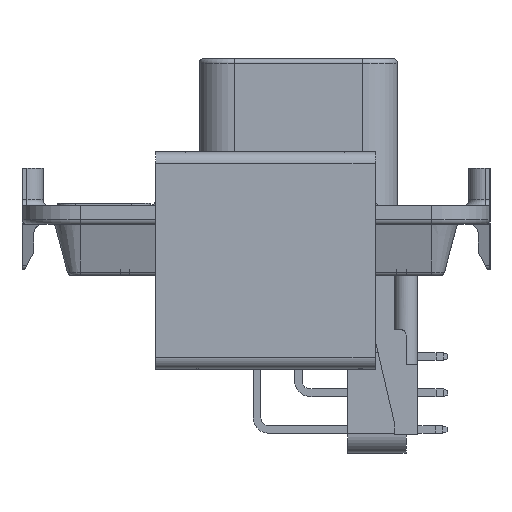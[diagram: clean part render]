
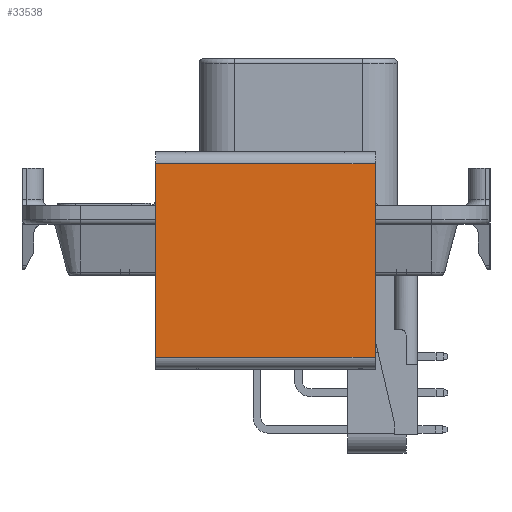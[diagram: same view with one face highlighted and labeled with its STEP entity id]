
A CAD part, left-side view. The second image highlights one B-rep face of the part: STEP entity #33538.
In plain terms, the highlighted planar face has unit normal (-1, 0, 0).
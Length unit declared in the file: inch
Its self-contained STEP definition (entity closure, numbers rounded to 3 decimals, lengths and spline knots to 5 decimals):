
#10331=DIRECTION('',(0.,0.,-1.));
#10332=VECTOR('',#10331,0.83);
#10333=CARTESIAN_POINT('',(-3.595,0.43,0.18));
#10334=LINE('',#10333,#10332);
#10792=DIRECTION('',(0.,0.,-1.));
#10793=VECTOR('',#10792,0.83);
#10794=CARTESIAN_POINT('',(-3.595,-0.51,0.18));
#10795=LINE('',#10794,#10793);
#10865=DIRECTION('',(0.,-1.,0.));
#10866=VECTOR('',#10865,0.94);
#10867=CARTESIAN_POINT('',(-3.595,0.43,-0.65));
#10868=LINE('',#10867,#10866);
#10869=DIRECTION('',(0.,-1.,0.));
#10870=VECTOR('',#10869,0.94);
#10871=CARTESIAN_POINT('',(-3.595,0.43,0.18));
#10872=LINE('',#10871,#10870);
#15183=CARTESIAN_POINT('',(-3.595,0.43,0.18));
#15184=VERTEX_POINT('',#15183);
#15185=CARTESIAN_POINT('',(-3.595,0.43,-0.65));
#15186=VERTEX_POINT('',#15185);
#15195=CARTESIAN_POINT('',(-3.595,-0.51,0.18));
#15196=VERTEX_POINT('',#15195);
#15197=CARTESIAN_POINT('',(-3.595,-0.51,-0.65));
#15198=VERTEX_POINT('',#15197);
#33526=CARTESIAN_POINT('',(-3.595,0.43,0.18));
#33527=DIRECTION('',(-1.,0.,0.));
#33528=DIRECTION('',(0.,0.,-1.));
#33529=AXIS2_PLACEMENT_3D('',#33526,#33527,#33528);
#33530=PLANE('',#33529);
#33531=ORIENTED_EDGE('',*,*,#32853,.F.);
#33533=ORIENTED_EDGE('',*,*,#33532,.T.);
#33534=ORIENTED_EDGE('',*,*,#33470,.T.);
#33535=ORIENTED_EDGE('',*,*,#33519,.F.);
#33536=EDGE_LOOP('',(#33531,#33533,#33534,#33535));
#33537=FACE_OUTER_BOUND('',#33536,.F.);
#33538=ADVANCED_FACE('',(#33537),#33530,.T.);
#32853=EDGE_CURVE('',#15184,#15186,#10334,.T.);
#33470=EDGE_CURVE('',#15196,#15198,#10795,.T.);
#33519=EDGE_CURVE('',#15186,#15198,#10868,.T.);
#33532=EDGE_CURVE('',#15184,#15196,#10872,.T.);
